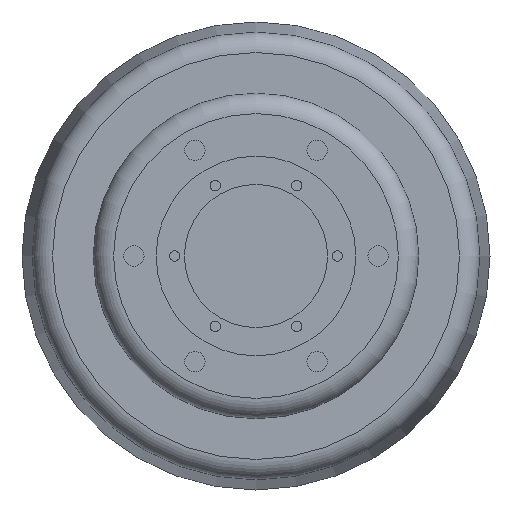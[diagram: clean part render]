
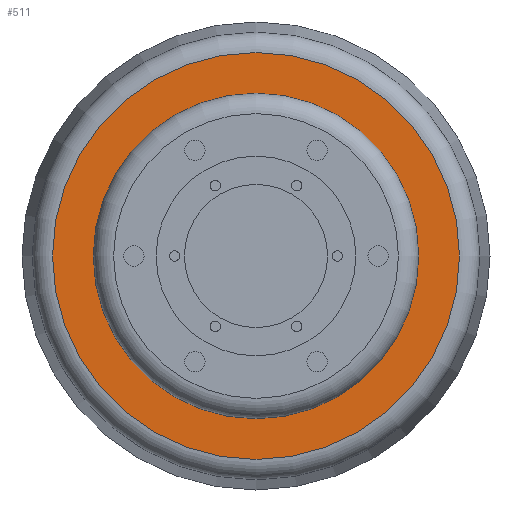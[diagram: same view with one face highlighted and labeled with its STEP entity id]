
A CAD part, front view. The second image highlights one B-rep face of the part: STEP entity #511.
In plain terms, the highlighted planar face has unit normal (0, -1, 0).
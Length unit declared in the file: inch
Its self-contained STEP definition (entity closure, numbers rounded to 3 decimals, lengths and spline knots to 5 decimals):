
#108 = DIRECTION ( 'NONE',  ( 0., 1., 0. ) ) ;
#109 = DIRECTION ( 'NONE',  ( 0., 0., 1. ) ) ;
#110 = CARTESIAN_POINT ( 'NONE',  ( 0., 0.35, 0. ) ) ;
#405 = CARTESIAN_POINT ( 'NONE',  ( -3.48411, 0.35, 0. ) ) ;
#411 = DIRECTION ( 'NONE',  ( 0., 1., 0. ) ) ;
#412 = PLANE ( 'NONE',  #846 ) ;
#414 = DIRECTION ( 'NONE',  ( 0., 0., 1. ) ) ;
#511 = ADVANCED_FACE ( 'NONE', ( #1288, #1309 ), #412, .F. ) ;
#605 = CARTESIAN_POINT ( 'NONE',  ( 0., 0.35, 2. ) ) ;
#665 = CARTESIAN_POINT ( 'NONE',  ( 0., 0.35, 2.5 ) ) ;
#737 = EDGE_CURVE ( 'NONE', #1588, #1588, #1507, .T. ) ;
#785 = EDGE_CURVE ( 'NONE', #1631, #1631, #1552, .T. ) ;
#846 = AXIS2_PLACEMENT_3D ( 'NONE', #405, #411, #414 ) ;
#980 = EDGE_LOOP ( 'NONE', ( #1137 ) ) ;
#982 = EDGE_LOOP ( 'NONE', ( #1089 ) ) ;
#1089 = ORIENTED_EDGE ( 'NONE', *, *, #737, .T. ) ;
#1137 = ORIENTED_EDGE ( 'NONE', *, *, #785, .T. ) ;
#1288 = FACE_OUTER_BOUND ( 'NONE', #982, .T. ) ;
#1309 = FACE_BOUND ( 'NONE', #980, .T. ) ;
#1507 = CIRCLE ( 'NONE', #1985, 2.5 ) ;
#1552 = CIRCLE ( 'NONE', #1922, 2. ) ;
#1588 = VERTEX_POINT ( 'NONE', #665 ) ;
#1631 = VERTEX_POINT ( 'NONE', #605 ) ;
#1722 = DIRECTION ( 'NONE',  ( 0., -1., 0. ) ) ;
#1779 = CARTESIAN_POINT ( 'NONE',  ( 0., 0.35, 0. ) ) ;
#1798 = DIRECTION ( 'NONE',  ( 0., 0., 1. ) ) ;
#1922 = AXIS2_PLACEMENT_3D ( 'NONE', #110, #108, #109 ) ;
#1985 = AXIS2_PLACEMENT_3D ( 'NONE', #1779, #1722, #1798 ) ;
